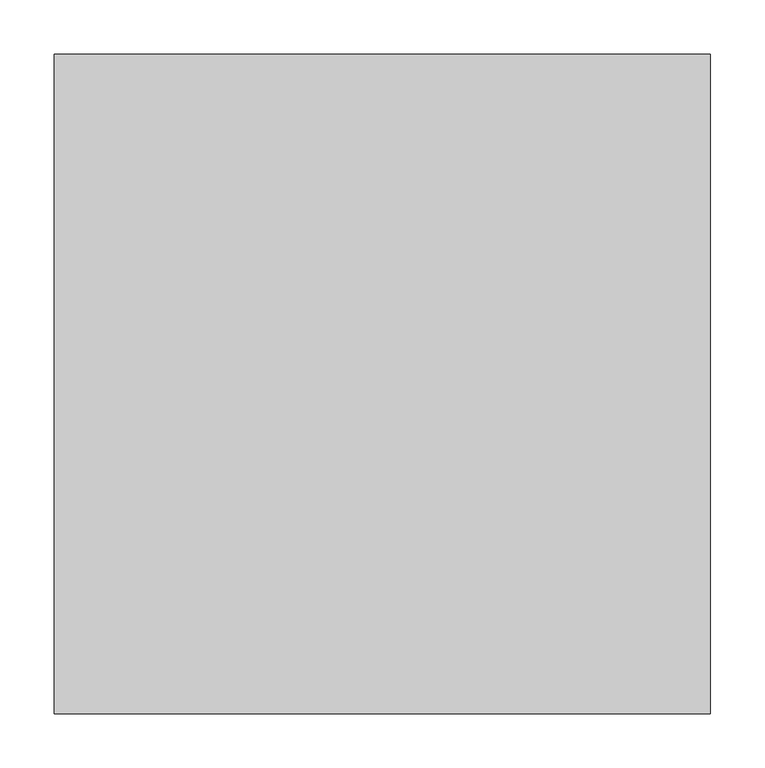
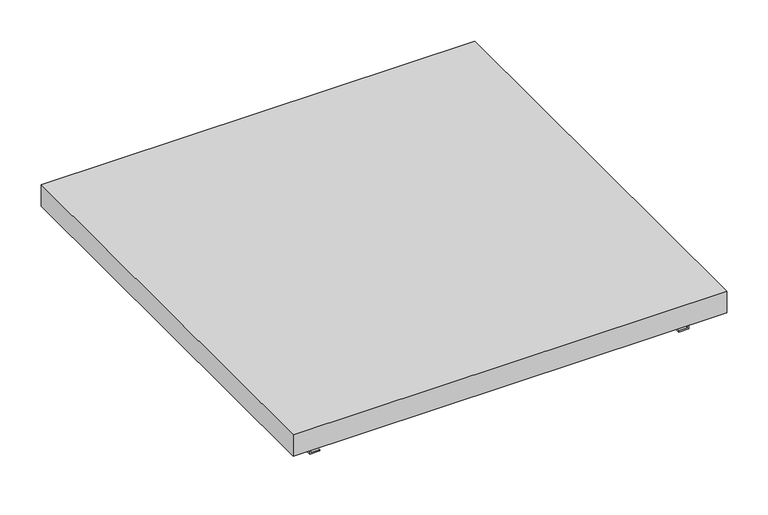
"""IFC4 building model written with IfcOpenShell, lengths in millimetres: furniture geometry."""

from ifc_helpers import new_model, si_unit, frame, origin, place, context, project, spatial, polyline, outline, extrude, source, transform, mapped, element, save


def furniture_7f08a233(model_context):
    return source(origin(), model_context, "Body", "SweptSolid", [
        extrude(outline(polyline([(303.2125, 177.8), (303.2125, -431.8), (-303.2125, -431.8), (-303.2125, 177.8), (303.2125, 177.8)])), frame((0.0, 0.0, 882.65), z_axis=(0.0, 0.0, 1.0), x_axis=(1.0, 0.0, 0.0)), (0.0, 0.0, 1.0), 31.75),
        extrude(outline(polyline([(858.8375, -263.525), (882.65, -263.525), (882.65, -265.1125), (857.25, -265.1125), (857.25, -250.825), (858.8375, -250.825), (858.8375, -263.525)])), frame((0.0, -406.4, 0.0), z_axis=(0.0, 1.0, 0.0), x_axis=(0.0, 0.0, 1.0)), (0.0, 0.0, 1.0), 390.525),
        extrude(outline(polyline([(858.8375, 263.525), (858.8375, 250.825), (857.25, 250.825), (857.25, 265.1125), (882.65, 265.1125), (882.65, 263.525), (858.8375, 263.525)])), frame((0.0, -406.4, 0.0), z_axis=(0.0, 1.0, 0.0), x_axis=(0.0, 0.0, 1.0)), (0.0, 0.0, 1.0), 390.525),
    ])


if __name__ == "__main__":
    model = new_model("IFC4")
    model_context = context("Model", 3, world=origin())
    ifc_project = project(units=[si_unit("LENGTHUNIT", "METRE", prefix="MILLI")], contexts=[model_context])
    site = spatial("IfcSite", under=ifc_project)
    building = spatial("IfcBuilding", under=site)
    placement = place(None, origin())
    furniture_shape = furniture_7f08a233(model_context)
    element("IfcFurniture", 1, ObjectType="HermanMiller_CoStruc_C2141_Heavy-DutyWorkSurface : 24\"D x 24\"W Lam", at=placement, inside=building, context=model_context, shape_type="MappedRepresentation", body=[
        mapped(furniture_shape, transform((0.0, 0.0, 0.0), x_axis=(1.0, 0.0, 0.0), y_axis=(0.0, 1.0, 0.0), z_axis=(0.0, 0.0, 1.0))),
    ])
    save(model, "model.ifc")
